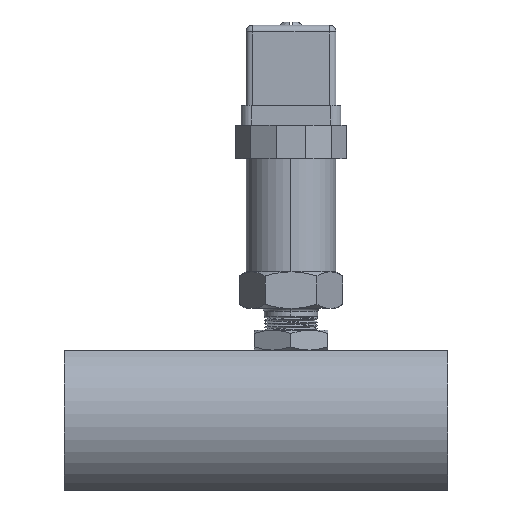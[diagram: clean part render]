
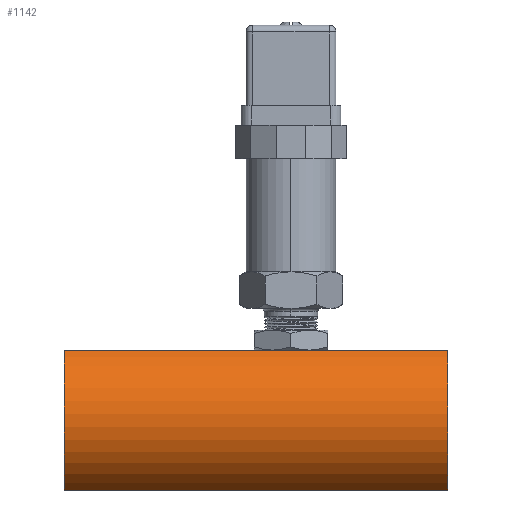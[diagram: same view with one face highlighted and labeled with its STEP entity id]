
A CAD part, left-side view. The second image highlights one B-rep face of the part: STEP entity #1142.
In plain terms, the highlighted cylindrical face has radius 24 mm (diameter 48 mm), a partial arc.
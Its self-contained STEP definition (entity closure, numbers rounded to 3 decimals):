
#409=CYLINDRICAL_SURFACE('',#7510,24.);
#761=FACE_OUTER_BOUND('',#2054,.T.);
#1142=ADVANCED_FACE('',(#761),#409,.T.);
#1563=CIRCLE('',#7507,24.);
#1564=CIRCLE('',#7509,24.);
#2054=EDGE_LOOP('',(#4050,#4051,#4052,#4053));
#4050=ORIENTED_EDGE('',*,*,#5718,.T.);
#4051=ORIENTED_EDGE('',*,*,#5716,.F.);
#4052=ORIENTED_EDGE('',*,*,#5719,.T.);
#4053=ORIENTED_EDGE('',*,*,#5712,.F.);
#4714=VERTEX_POINT('',#17065);
#4715=VERTEX_POINT('',#17067);
#4717=VERTEX_POINT('',#17073);
#4718=VERTEX_POINT('',#17075);
#5712=EDGE_CURVE('',#4714,#4715,#6350,.T.);
#5716=EDGE_CURVE('',#4717,#4718,#6353,.T.);
#5718=EDGE_CURVE('',#4714,#4718,#1563,.T.);
#5719=EDGE_CURVE('',#4717,#4715,#1564,.T.);
#6350=LINE('',#17066,#6985);
#6353=LINE('',#17074,#6988);
#6985=VECTOR('',#9171,1.);
#6988=VECTOR('',#9178,1.);
#7507=AXIS2_PLACEMENT_3D('',#17078,#9182,#9183);
#7509=AXIS2_PLACEMENT_3D('',#17080,#9186,#9187);
#7510=AXIS2_PLACEMENT_3D('',#17081,#9188,#9189);
#9171=DIRECTION('',(0.,1.,0.));
#9178=DIRECTION('',(0.,-1.,0.));
#9182=DIRECTION('',(0.,1.,0.));
#9183=DIRECTION('',(-1.,0.,0.));
#9186=DIRECTION('',(0.,-1.,0.));
#9187=DIRECTION('',(1.,0.,0.));
#9188=DIRECTION('',(0.,-1.,0.));
#9189=DIRECTION('',(1.,0.,0.));
#17065=CARTESIAN_POINT('',(13.881,-10.6,-136.));
#17066=CARTESIAN_POINT('',(13.881,129.05,-136.));
#17067=CARTESIAN_POINT('',(13.881,104.4,-136.));
#17073=CARTESIAN_POINT('',(13.881,104.4,-94.));
#17074=CARTESIAN_POINT('',(13.881,129.05,-94.));
#17075=CARTESIAN_POINT('',(13.881,-10.6,-94.));
#17078=CARTESIAN_POINT('',(25.5,-10.6,-115.));
#17080=CARTESIAN_POINT('',(25.5,104.4,-115.));
#17081=CARTESIAN_POINT('',(25.5,129.05,-115.));
